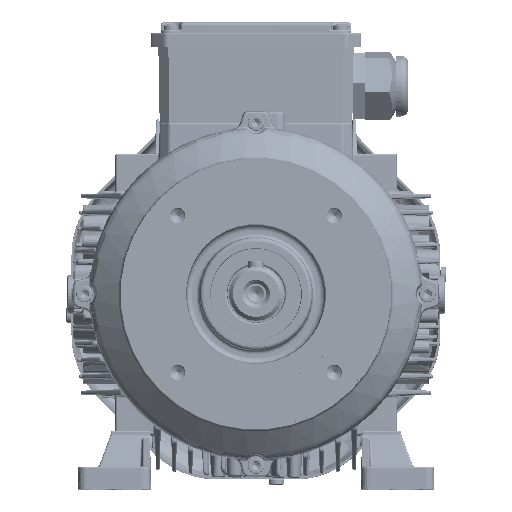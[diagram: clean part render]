
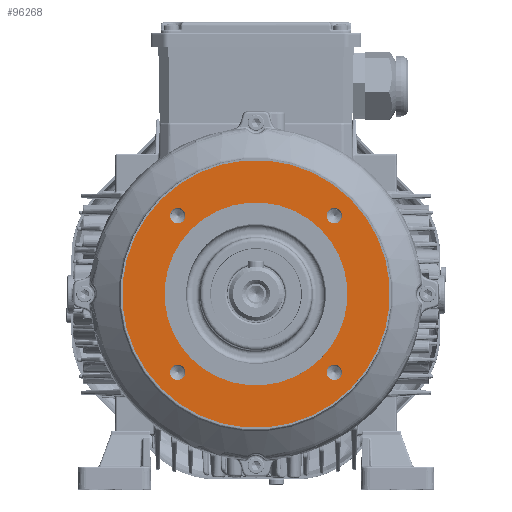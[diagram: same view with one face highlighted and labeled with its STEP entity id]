
A CAD part, top view. The second image highlights one B-rep face of the part: STEP entity #96268.
In plain terms, the highlighted planar face has unit normal (0, 0, 1).
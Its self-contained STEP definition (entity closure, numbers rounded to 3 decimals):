
#90806=PLANE('',#251556);
#96268=ADVANCED_FACE('',(#109942,#109943,#109944,#109945,#109946,#109947),
#90806,.T.);
#109942=FACE_BOUND('',#115075,.T.);
#109943=FACE_BOUND('',#115076,.T.);
#109944=FACE_BOUND('',#115077,.T.);
#109945=FACE_BOUND('',#115078,.T.);
#109946=FACE_BOUND('',#115079,.T.);
#109947=FACE_BOUND('',#115080,.T.);
#115075=EDGE_LOOP('',(#140602));
#115076=EDGE_LOOP('',(#140603));
#115077=EDGE_LOOP('',(#140604));
#115078=EDGE_LOOP('',(#140605));
#115079=EDGE_LOOP('',(#140606));
#115080=EDGE_LOOP('',(#140607));
#140602=ORIENTED_EDGE('',*,*,#207086,.T.);
#140603=ORIENTED_EDGE('',*,*,#207087,.T.);
#140604=ORIENTED_EDGE('',*,*,#207088,.T.);
#140605=ORIENTED_EDGE('',*,*,#207089,.T.);
#140606=ORIENTED_EDGE('',*,*,#207082,.T.);
#140607=ORIENTED_EDGE('',*,*,#207085,.T.);
#186724=VERTEX_POINT('',#372312);
#186727=VERTEX_POINT('',#372320);
#186728=VERTEX_POINT('',#372323);
#186729=VERTEX_POINT('',#372325);
#186730=VERTEX_POINT('',#372327);
#186731=VERTEX_POINT('',#372329);
#207082=EDGE_CURVE('',#186724,#186724,#230824,.T.);
#207085=EDGE_CURVE('',#186727,#186727,#230827,.T.);
#207086=EDGE_CURVE('',#186728,#186728,#230828,.T.);
#207087=EDGE_CURVE('',#186729,#186729,#230829,.T.);
#207088=EDGE_CURVE('',#186730,#186730,#230830,.T.);
#207089=EDGE_CURVE('',#186731,#186731,#230831,.T.);
#230824=CIRCLE('',#251545,69.5);
#230827=CIRCLE('',#251550,47.5);
#230828=CIRCLE('',#251552,4.);
#230829=CIRCLE('',#251553,4.);
#230830=CIRCLE('',#251554,4.);
#230831=CIRCLE('',#251555,4.);
#251545=AXIS2_PLACEMENT_3D('',#372311,#281979,#281980);
#251550=AXIS2_PLACEMENT_3D('',#372319,#281989,#281990);
#251552=AXIS2_PLACEMENT_3D('',#372322,#281993,#281994);
#251553=AXIS2_PLACEMENT_3D('',#372324,#281995,#281996);
#251554=AXIS2_PLACEMENT_3D('',#372326,#281997,#281998);
#251555=AXIS2_PLACEMENT_3D('',#372328,#281999,#282000);
#251556=AXIS2_PLACEMENT_3D('',#372330,#282001,#282002);
#281979=DIRECTION('',(0.,0.,1.));
#281980=DIRECTION('',(0.707,0.707,0.));
#281989=DIRECTION('',(0.,0.,-1.));
#281990=DIRECTION('',(0.707,0.707,0.));
#281993=DIRECTION('',(0.,0.,-1.));
#281994=DIRECTION('',(0.707,0.707,0.));
#281995=DIRECTION('',(0.,0.,-1.));
#281996=DIRECTION('',(0.707,0.707,0.));
#281997=DIRECTION('',(0.,0.,-1.));
#281998=DIRECTION('',(0.707,0.707,0.));
#281999=DIRECTION('',(0.,0.,-1.));
#282000=DIRECTION('',(0.707,0.707,0.));
#282001=DIRECTION('',(0.,0.,1.));
#282002=DIRECTION('',(0.707,0.707,0.));
#372311=CARTESIAN_POINT('',(0.,0.,
16.));
#372312=CARTESIAN_POINT('',(49.144,49.144,16.));
#372319=CARTESIAN_POINT('',(0.,0.,16.));
#372320=CARTESIAN_POINT('',(33.588,33.588,16.));
#372322=CARTESIAN_POINT('',(-40.659,-40.659,16.));
#372323=CARTESIAN_POINT('',(-37.83,-37.83,16.));
#372324=CARTESIAN_POINT('',(40.659,-40.659,16.));
#372325=CARTESIAN_POINT('',(43.487,-37.83,16.));
#372326=CARTESIAN_POINT('',(40.659,40.659,16.));
#372327=CARTESIAN_POINT('',(43.487,43.487,16.));
#372328=CARTESIAN_POINT('',(-40.659,40.659,16.));
#372329=CARTESIAN_POINT('',(-37.83,43.487,16.));
#372330=CARTESIAN_POINT('',(0.,0.,
16.));
